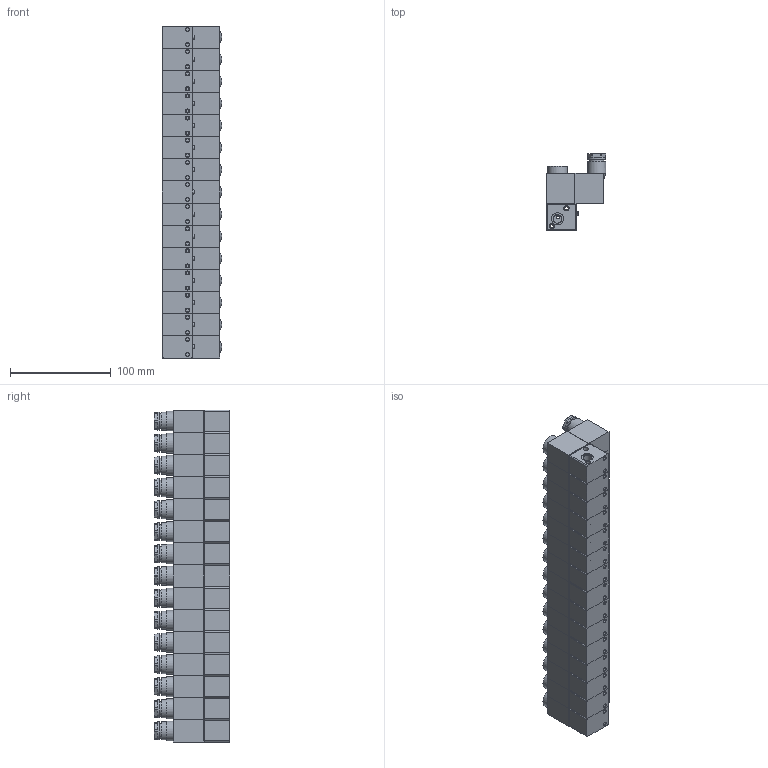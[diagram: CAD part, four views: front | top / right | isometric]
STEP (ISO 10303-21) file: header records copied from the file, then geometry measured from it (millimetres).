
FILE_DESCRIPTION(/* description */ ('STEP AP214'),/* implementation_level */ '2;1');
FILE_NAME(/* name */ '86-MS-3V-15-xxx.stp',/* time_stamp */ '2026-01-15T09:37:00+01:00',/* author */ ('Tschernatsch'),/* organization */ ('CADENAS'),/* preprocessor_version */ 'ST-DEVELOPER v20',/* originating_system */ 'Autodesk Inventor 2024',/* authorisation */ ' ');
FILE_SCHEMA (('AUTOMOTIVE_DESIGN { 1 0 10303 214 3 1 1 }'));
Length unit declared in the file: millimetre
Products named in the file (3): 3v1-06-LD-DC24V-15F; 3v1-06-LD-DC24V-15F3; 3v1-06-LD-DC24V-15F2
Assembly tree (30 placements, depth 2):
  3v1-06-LD-DC24V-15F
    3v1-06-LD-DC24V-15F3  x15
    3v1-06-LD-DC24V-15F2  x15
Bounding box: 59 x 75 x 330 mm (x, y, z)
Volume: 872970.8 mm3; surface area: 222911.2 mm2
Topology: 30 solids, 30 shells, 1350 faces, 2925 edges, 1935 vertices
Faces by surface type: plane 915, cylinder 375, cone 60
Full cylindrical faces by diameter (mm): 3.242 x30, 3.5 x45, 4 x15, 4.3 x15, 5.2 x60, 8.566 x45, 11 x15, 12 x30, 14.4 x15, 18 x30, 19.6 x15
Entity records: 2825 total; most frequent: DIRECTION 513, CARTESIAN_POINT 449, ORIENTED_EDGE 390, AXIS2_PLACEMENT_3D 196, EDGE_CURVE 195, VERTEX_POINT 129, LINE 121, VECTOR 121
